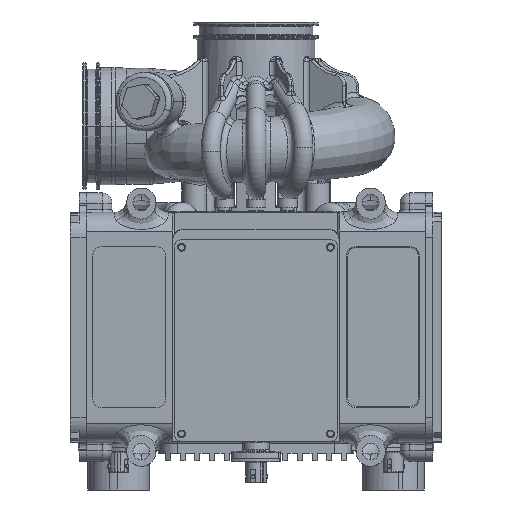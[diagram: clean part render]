
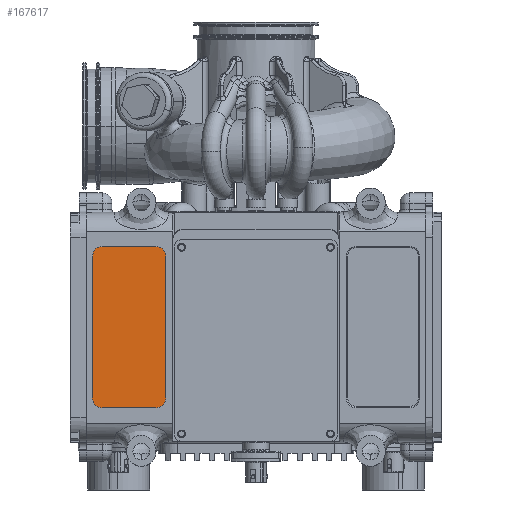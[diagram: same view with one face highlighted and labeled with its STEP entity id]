
A CAD part, front view. The second image highlights one B-rep face of the part: STEP entity #167617.
In plain terms, the highlighted planar face has unit normal (0, -1, 0).
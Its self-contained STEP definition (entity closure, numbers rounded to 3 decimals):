
#1245 = DIRECTION ( 'NONE',  ( 0., 1., 0. ) ) ;
#1859 = LINE ( 'NONE', #61499, #13102 ) ;
#2925 = EDGE_CURVE ( 'NONE', #54446, #21378, #194719, .T. ) ;
#3242 = DIRECTION ( 'NONE',  ( 0., 0., -1. ) ) ;
#4297 = EDGE_CURVE ( 'NONE', #7785, #131816, #81956, .T. ) ;
#7785 = VERTEX_POINT ( 'NONE', #195944 ) ;
#10692 = ORIENTED_EDGE ( 'NONE', *, *, #32722, .F. ) ;
#13102 = VECTOR ( 'NONE', #15017, 1000. ) ;
#15017 = DIRECTION ( 'NONE',  ( 0., 0., -1. ) ) ;
#16712 = CARTESIAN_POINT ( 'NONE',  ( -41., -64.2, -93. ) ) ;
#19428 = CIRCLE ( 'NONE', #116186, 4. ) ;
#21378 = VERTEX_POINT ( 'NONE', #120885 ) ;
#22847 = ORIENTED_EDGE ( 'NONE', *, *, #2925, .F. ) ;
#23337 = CARTESIAN_POINT ( 'NONE',  ( -63., -64.2, -31. ) ) ;
#32282 = ORIENTED_EDGE ( 'NONE', *, *, #89160, .F. ) ;
#32722 = EDGE_CURVE ( 'NONE', #172205, #187074, #19428, .T. ) ;
#36095 = DIRECTION ( 'NONE',  ( 0., 0., -1. ) ) ;
#36543 = DIRECTION ( 'NONE',  ( 0., 0., -1. ) ) ;
#41772 = ORIENTED_EDGE ( 'NONE', *, *, #131266, .F. ) ;
#42740 = PLANE ( 'NONE',  #69153 ) ;
#44946 = CARTESIAN_POINT ( 'NONE',  ( -41., -64.2, -31. ) ) ;
#49254 = CARTESIAN_POINT ( 'NONE',  ( -41., -64.2, -89. ) ) ;
#51482 = CARTESIAN_POINT ( 'NONE',  ( -67., -64.2, -89. ) ) ;
#52319 = VECTOR ( 'NONE', #84331, 1000. ) ;
#54446 = VERTEX_POINT ( 'NONE', #16712 ) ;
#56436 = CARTESIAN_POINT ( 'NONE',  ( -63., -64.2, -93. ) ) ;
#61066 = EDGE_CURVE ( 'NONE', #187074, #97859, #1859, .T. ) ;
#61499 = CARTESIAN_POINT ( 'NONE',  ( -37., -64.2, -89. ) ) ;
#63119 = ORIENTED_EDGE ( 'NONE', *, *, #61066, .F. ) ;
#64575 = FACE_OUTER_BOUND ( 'NONE', #170819, .T. ) ;
#69153 = AXIS2_PLACEMENT_3D ( 'NONE', #126155, #104313, #187715 ) ;
#70779 = CARTESIAN_POINT ( 'NONE',  ( -37., -64.2, -89. ) ) ;
#71182 = CARTESIAN_POINT ( 'NONE',  ( -41., -64.2, -27. ) ) ;
#72288 = EDGE_CURVE ( 'NONE', #21378, #80960, #82132, .T. ) ;
#80960 = VERTEX_POINT ( 'NONE', #51482 ) ;
#81289 = CARTESIAN_POINT ( 'NONE',  ( -63., -64.2, -27. ) ) ;
#81956 = CIRCLE ( 'NONE', #194802, 4. ) ;
#82132 = CIRCLE ( 'NONE', #146684, 4. ) ;
#84331 = DIRECTION ( 'NONE',  ( 0., 0., 1. ) ) ;
#89160 = EDGE_CURVE ( 'NONE', #80960, #7785, #192319, .T. ) ;
#97613 = ORIENTED_EDGE ( 'NONE', *, *, #141766, .F. ) ;
#97859 = VERTEX_POINT ( 'NONE', #70779 ) ;
#102492 = CARTESIAN_POINT ( 'NONE',  ( -37., -64.2, -31. ) ) ;
#104313 = DIRECTION ( 'NONE',  ( 0., -1., 0. ) ) ;
#106842 = DIRECTION ( 'NONE',  ( -1., 0., 0. ) ) ;
#110216 = ORIENTED_EDGE ( 'NONE', *, *, #4297, .F. ) ;
#116186 = AXIS2_PLACEMENT_3D ( 'NONE', #44946, #136785, #121641 ) ;
#120885 = CARTESIAN_POINT ( 'NONE',  ( -63., -64.2, -93. ) ) ;
#121641 = DIRECTION ( 'NONE',  ( 0., 0., -1. ) ) ;
#126155 = CARTESIAN_POINT ( 'NONE',  ( -77.212, -64.2, -97. ) ) ;
#130748 = CARTESIAN_POINT ( 'NONE',  ( -67., -64.2, -31. ) ) ;
#130756 = LINE ( 'NONE', #71182, #185263 ) ;
#131266 = EDGE_CURVE ( 'NONE', #97859, #54446, #158368, .T. ) ;
#131392 = DIRECTION ( 'NONE',  ( 0., 1., 0. ) ) ;
#131816 = VERTEX_POINT ( 'NONE', #81289 ) ;
#132764 = DIRECTION ( 'NONE',  ( 1., 0., 0. ) ) ;
#136785 = DIRECTION ( 'NONE',  ( 0., 1., 0. ) ) ;
#139133 = CARTESIAN_POINT ( 'NONE',  ( -41., -64.2, -27. ) ) ;
#139609 = CARTESIAN_POINT ( 'NONE',  ( -63., -64.2, -89. ) ) ;
#141766 = EDGE_CURVE ( 'NONE', #131816, #172205, #130756, .T. ) ;
#146684 = AXIS2_PLACEMENT_3D ( 'NONE', #139609, #1245, #3242 ) ;
#158368 = CIRCLE ( 'NONE', #184162, 4. ) ;
#167617 = ADVANCED_FACE ( 'NONE', ( #64575 ), #42740, .T. ) ;
#170819 = EDGE_LOOP ( 'NONE', ( #41772, #63119, #10692, #97613, #110216, #32282, #193390, #22847 ) ) ;
#172205 = VERTEX_POINT ( 'NONE', #139133 ) ;
#174396 = DIRECTION ( 'NONE',  ( 0., 1., 0. ) ) ;
#175784 = VECTOR ( 'NONE', #106842, 1000. ) ;
#184162 = AXIS2_PLACEMENT_3D ( 'NONE', #49254, #174396, #36095 ) ;
#185263 = VECTOR ( 'NONE', #132764, 1000. ) ;
#187074 = VERTEX_POINT ( 'NONE', #102492 ) ;
#187715 = DIRECTION ( 'NONE',  ( 0., 0., -1. ) ) ;
#192319 = LINE ( 'NONE', #130748, #52319 ) ;
#193390 = ORIENTED_EDGE ( 'NONE', *, *, #72288, .F. ) ;
#194719 = LINE ( 'NONE', #56436, #175784 ) ;
#194802 = AXIS2_PLACEMENT_3D ( 'NONE', #23337, #131392, #36543 ) ;
#195944 = CARTESIAN_POINT ( 'NONE',  ( -67., -64.2, -31. ) ) ;
